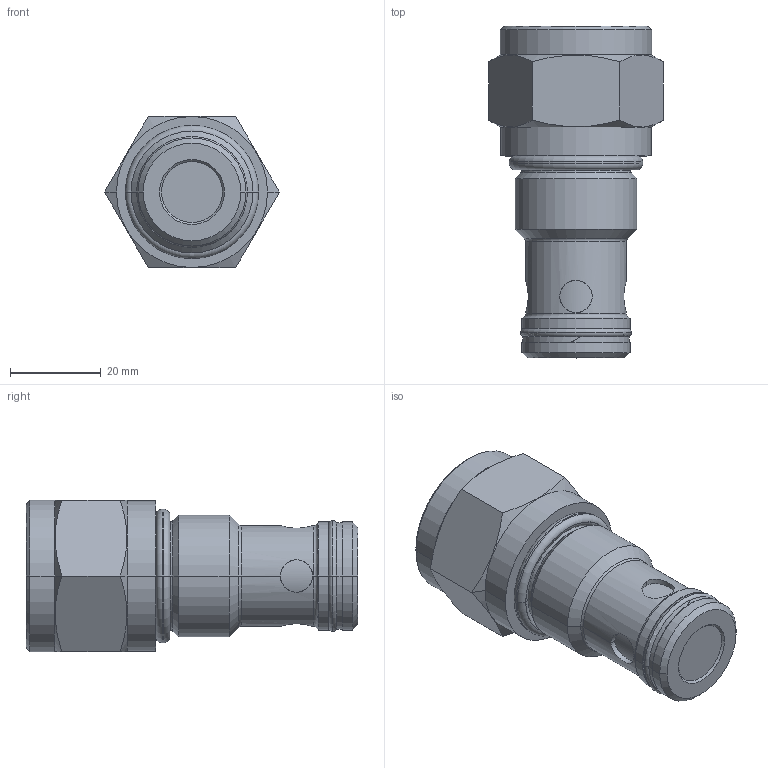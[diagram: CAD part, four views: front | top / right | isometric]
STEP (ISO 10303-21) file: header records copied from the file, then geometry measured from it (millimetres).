
FILE_DESCRIPTION((''),'2;1');
FILE_NAME('CVFP-12-_-_-OUT','2015-09-03T',('torrese'),(''),'PRO/ENGINEER BY PARAMETRIC TECHNOLOGY CORPORATION, 2015070','PRO/ENGINEER BY PARAMETRIC TECHNOLOGY CORPORATION, 2015070','');
FILE_SCHEMA(('CONFIG_CONTROL_DESIGN','GEOMETRIC_VALIDATION_PROPERTIES_MIM'));
Length unit declared in the file: inch
Products named in the file (1): CVFP-12-_-_-OUT
Bounding box: 38.48 x 73.03 x 33.32 mm (x, y, z)
Volume: 46818.6 mm3; surface area: 8971.4 mm2
Topology: 1 solids, 1 shells, 88 faces, 186 edges, 108 vertices
Faces by surface type: cylinder 37, cone 18, plane 17, torus 16
Entity records: 5364 total; most frequent: CARTESIAN_POINT 2426, DIRECTION 419, ORIENTED_EDGE 372, PRESENTATION_STYLE_ASSIGNMENT 237, STYLED_ITEM 189, CURVE_STYLE 186, EDGE_CURVE 186, AXIS2_PLACEMENT_3D 179
